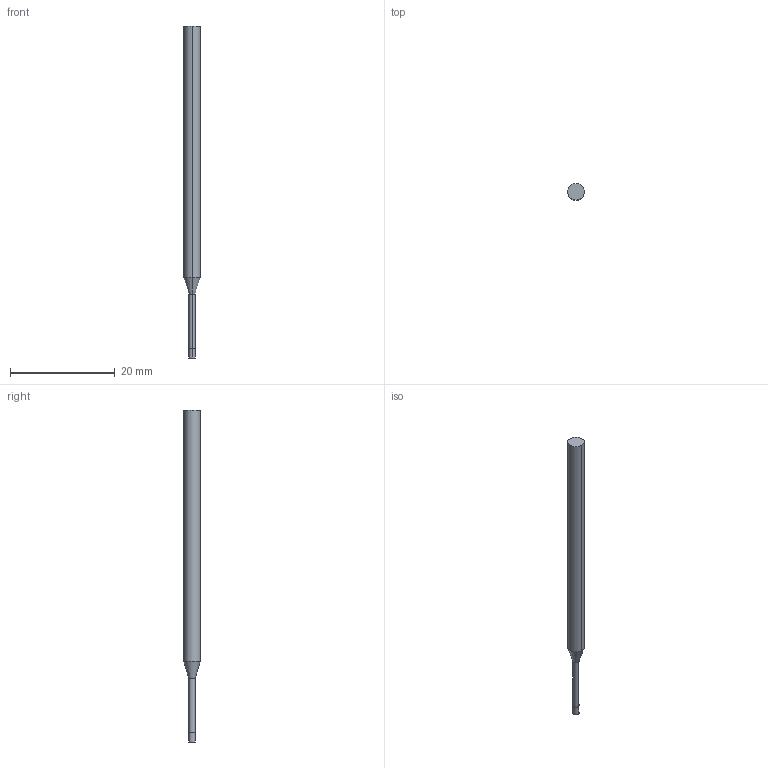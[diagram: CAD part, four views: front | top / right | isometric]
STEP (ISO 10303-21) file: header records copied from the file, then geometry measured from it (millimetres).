
FILE_DESCRIPTION((' '),'2;1');
FILE_NAME( '3MVS0468N10AH.stp', '2026-01-21T19:07:12', (' '), ('--- Datakit www.datakit.com---'), ' Datakit CrossCadWare V2025.4 Sep 19 2025', 'Mastercam 2027', ' ');
FILE_SCHEMA(('AUTOMOTIVE_DESIGN { 1 0 10303 214 1 1 1 1 }'));
Length unit declared in the file: inch
Products named in the file (1): 3MVS0468N10AH
Bounding box: 3.17 x 3.17 x 63.5 mm (x, y, z)
Volume: 407 mm3; surface area: 557.2 mm2
Topology: 1 solids, 1 shells, 10 faces, 18 edges, 10 vertices
Faces by surface type: cylinder 6, plane 2, cone 2
Entity records: 323 total; most frequent: DIRECTION 58, CARTESIAN_POINT 43, ORIENTED_EDGE 36, AXIS2_PLACEMENT_3D 25, EDGE_CURVE 18, VERTEX_POINT 10, CIRCLE 10, EDGE_LOOP 10
